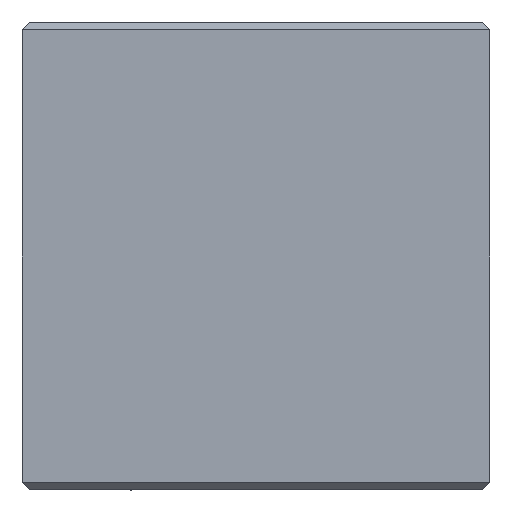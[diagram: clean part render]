
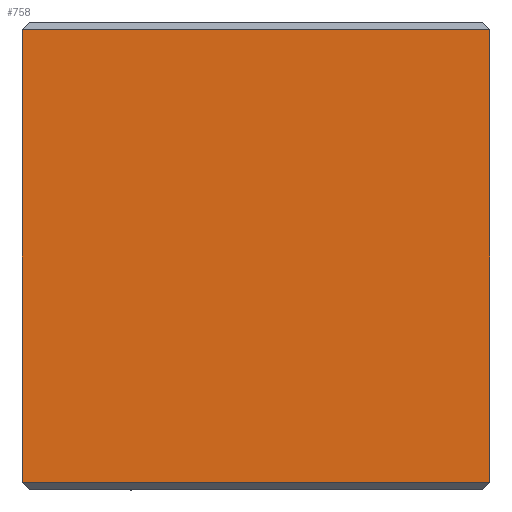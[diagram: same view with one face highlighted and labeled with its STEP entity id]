
A CAD part, front view. The second image highlights one B-rep face of the part: STEP entity #758.
In plain terms, the highlighted planar face has unit normal (0, -1, 0).
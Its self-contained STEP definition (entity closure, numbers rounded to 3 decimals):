
#577=CARTESIAN_POINT('Vertex',(30.,0.,1.)) ;
#597=CARTESIAN_POINT('Line Origine',(0.,0.,1.)) ;
#601=CARTESIAN_POINT('Vertex',(-30.,0.,1.)) ;
#685=CARTESIAN_POINT('Line Origine',(30.,0.,30.)) ;
#689=CARTESIAN_POINT('Vertex',(30.,0.,59.)) ;
#723=CARTESIAN_POINT('Line Origine',(-30.,0.,30.)) ;
#727=CARTESIAN_POINT('Vertex',(-30.,0.,59.)) ;
#742=CARTESIAN_POINT('Axis2P3D Location',(0.,0.,0.)) ;
#747=CARTESIAN_POINT('Line Origine',(0.,0.,59.)) ;
#598=DIRECTION('Vector Direction',(1.,0.,0.)) ;
#686=DIRECTION('Vector Direction',(0.,0.,-1.)) ;
#724=DIRECTION('Vector Direction',(0.,0.,1.)) ;
#743=DIRECTION('Axis2P3D Direction',(0.,1.,0.)) ;
#744=DIRECTION('Axis2P3D XDirection',(-1.,0.,0.)) ;
#748=DIRECTION('Vector Direction',(-1.,0.,0.)) ;
#745=AXIS2_PLACEMENT_3D('Plane Axis2P3D',#742,#743,#744) ;
#753=ORIENTED_EDGE('',*,*,#751,.F.) ;
#754=ORIENTED_EDGE('',*,*,#729,.F.) ;
#755=ORIENTED_EDGE('',*,*,#603,.F.) ;
#756=ORIENTED_EDGE('',*,*,#691,.F.) ;
#599=VECTOR('Line Direction',#598,1.) ;
#687=VECTOR('Line Direction',#686,1.) ;
#725=VECTOR('Line Direction',#724,1.) ;
#749=VECTOR('Line Direction',#748,1.) ;
#758=ADVANCED_FACE('\X2\96F64EF651E04F554F53\X0\',(#757),#746,.F.) ;
#603=EDGE_CURVE('',#578,#602,#600,.F.) ;
#691=EDGE_CURVE('',#690,#578,#688,.T.) ;
#729=EDGE_CURVE('',#602,#728,#726,.T.) ;
#751=EDGE_CURVE('',#728,#690,#750,.F.) ;
#752=EDGE_LOOP('',(#753,#754,#755,#756)) ;
#757=FACE_OUTER_BOUND('',#752,.T.) ;
#600=LINE('Line',#597,#599) ;
#688=LINE('Line',#685,#687) ;
#726=LINE('Line',#723,#725) ;
#750=LINE('Line',#747,#749) ;
#746=PLANE('Plane',#745) ;
#578=VERTEX_POINT('',#577) ;
#602=VERTEX_POINT('',#601) ;
#690=VERTEX_POINT('',#689) ;
#728=VERTEX_POINT('',#727) ;
